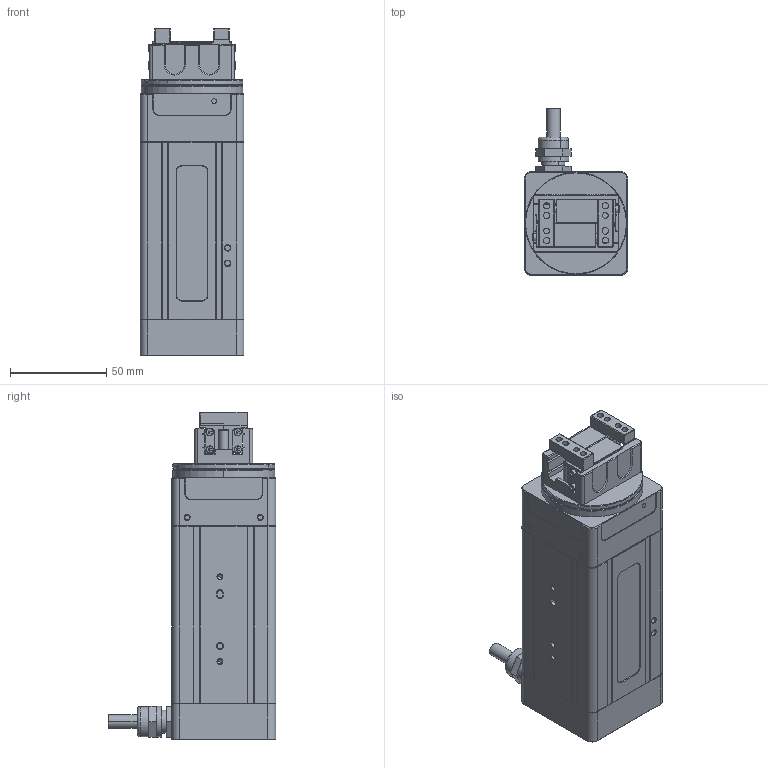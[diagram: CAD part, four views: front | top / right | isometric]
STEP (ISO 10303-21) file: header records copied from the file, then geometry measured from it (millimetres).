
FILE_DESCRIPTION(('CATIA V5 STEP Exchange'),'2;1');
FILE_NAME('E:\工作文件\01-夹爪\ERG-20-100\外观建模\20230426侧出线\ERG20-100ALL-LMC-20230426.stp','2023-04-26T06:19:08+00:00',('none'),('none'),'CATIA Version 5 Release 20 GA (IN-10)','CATIA V5 STEP AP203','none');
FILE_SCHEMA(('CONFIG_CONTROL_DESIGN'));
Length unit declared in the file: millimetre
Products named in the file (1): 产品1
Assembly tree (4 placements, depth 2):
  产品1
    #58
    #14219
    #17522  x2
Bounding box: 54 x 87 x 170.1 mm (x, y, z)
Volume: 434322.8 mm3; surface area: 67773.6 mm2
Topology: 11 solids, 29 shells, 1048 faces, 2550 edges, 1612 vertices
Faces by surface type: plane 574, cylinder 260, cone 162, torus 50, bspline 2
Entity records: 23600 total; most frequent: CARTESIAN_POINT 5317, ORIENTED_EDGE 4010, DIRECTION 3086, EDGE_CURVE 2005, AXIS2_PLACEMENT_3D 1273, VERTEX_POINT 1268, VECTOR 1168, LINE 1168
